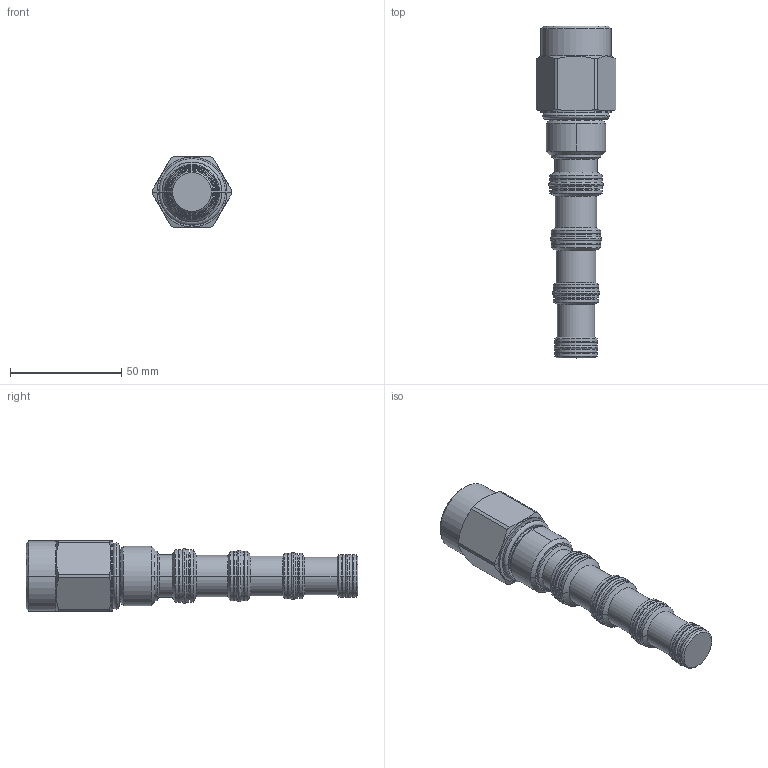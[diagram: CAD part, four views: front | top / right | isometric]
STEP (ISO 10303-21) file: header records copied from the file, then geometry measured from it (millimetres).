
FILE_DESCRIPTION((''),'2;1');
FILE_NAME('5265850_SW0002','2009-02-09T',('jcs'),(''),'PRO/ENGINEER BY PARAMETRIC TECHNOLOGY CORPORATION, 2008010','PRO/ENGINEER BY PARAMETRIC TECHNOLOGY CORPORATION, 2008010','');
FILE_SCHEMA(('CONFIG_CONTROL_DESIGN'));
Length unit declared in the file: inch
Products named in the file (1): 5265850_SW0002
Bounding box: 35.81 x 149.28 x 31.71 mm (x, y, z)
Volume: 70204.7 mm3; surface area: 17616.9 mm2
Topology: 8 solids, 8 shells, 210 faces, 436 edges, 246 vertices
Faces by surface type: cylinder 80, cone 44, revolution 40, plane 26, torus 20
Entity records: 6250 total; most frequent: CARTESIAN_POINT 1670, DIRECTION 1018, ORIENTED_EDGE 872, EDGE_CURVE 436, AXIS2_PLACEMENT_3D 424, CIRCLE 254, VERTEX_POINT 246, EDGE_LOOP 228
